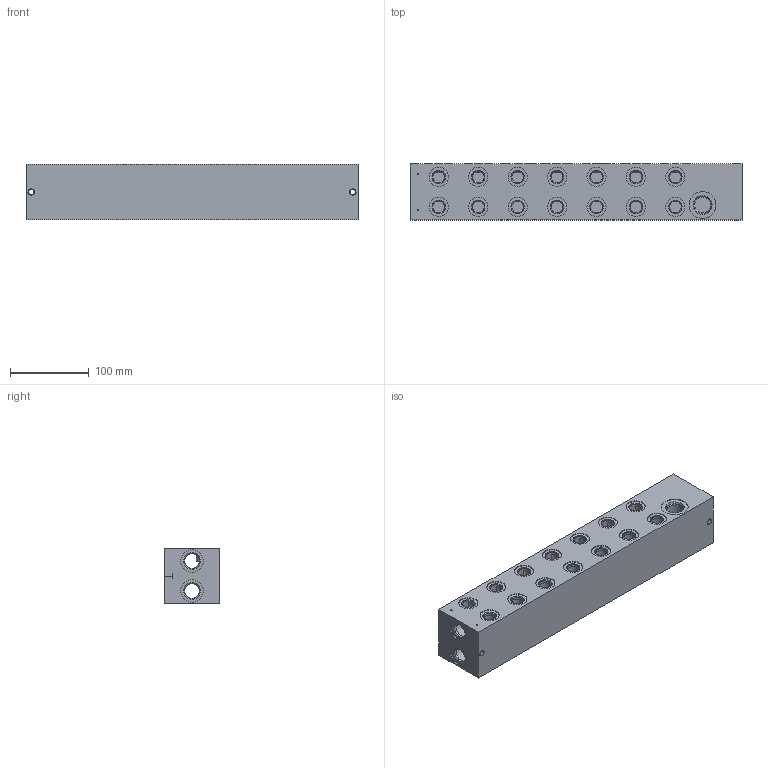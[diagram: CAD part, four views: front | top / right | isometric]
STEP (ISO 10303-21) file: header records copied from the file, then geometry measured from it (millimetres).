
FILE_DESCRIPTION((''),'2;1');
FILE_NAME('27564100','2015-11-27T',('Ahcz.brigadnik05'),(''),'PRO/ENGINEER BY PARAMETRIC TECHNOLOGY CORPORATION, 2015110','PRO/ENGINEER BY PARAMETRIC TECHNOLOGY CORPORATION, 2015110','');
FILE_SCHEMA(('AUTOMOTIVE_DESIGN { 1 0 10303 214 1 1 1 1 }'));
Length unit declared in the file: millimetre
Products named in the file (1): 27564100
Bounding box: 421 x 71 x 71 mm (x, y, z)
Volume: 691147.8 mm3; surface area: 261599 mm2
Topology: 1 solids, 55 shells, 467 faces, 1806 edges, 1790 vertices
Faces by surface type: cylinder 322, plane 90, cone 55
Entity records: 26619 total; most frequent: CARTESIAN_POINT 5481, DIRECTION 3377, ORIENTED_EDGE 2320, PRESENTATION_STYLE_ASSIGNMENT 1914, STYLED_ITEM 1914, CURVE_STYLE 1853, EDGE_CURVE 1268, AXIS2_PLACEMENT_3D 1206
